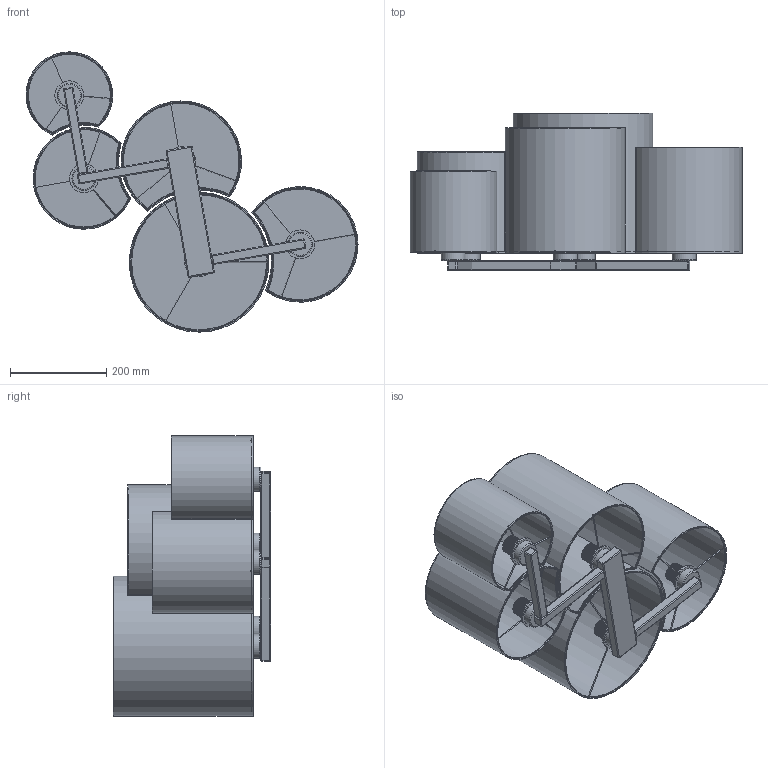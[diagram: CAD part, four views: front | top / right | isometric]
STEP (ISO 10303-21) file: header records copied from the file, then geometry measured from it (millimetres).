
FILE_DESCRIPTION(/* description */ (''),/* implementation_level */ '2;1');
FILE_NAME(/* name */ 'C:/Users/kubaw/OneDrive/Pulpit/TK_lighting - modele 2/OK/4394_MONA v6/4394_MONA v6.step',/* time_stamp */ '2021-03-31T19:53:07+02:00',/* author */ (''),/* organization */ (''),/* preprocessor_version */ 'ST-DEVELOPER v18.1',/* originating_system */ 'Autodesk Translation Framework v9.10.0.1330',/* authorisation */ '');
FILE_SCHEMA (('AUTOMOTIVE_DESIGN { 1 0 10303 214 3 1 1 }'));
Length unit declared in the file: millimetre
Products named in the file (2): 4394_MONA; MOCOWANIE_MONA
Assembly tree (5 placements, depth 2):
  4394_MONA
    MOCOWANIE_MONA  x5
Bounding box: 688.99 x 326 x 581.51 mm (x, y, z)
Volume: 1903807.9 mm3; surface area: 2396200.6 mm2
Topology: 89 solids, 89 shells, 886 faces, 1723 edges, 1060 vertices
Faces by surface type: cylinder 418, plane 324, sphere 80, bspline 42, torus 22
Full cylindrical faces by diameter (mm): 2 x29, 3 x25, 32 x5, 34.939 x65, 42 x5, 46 x5, 50 x5, 56 x5, 60 x5, 280 x1, 282 x1, 284 x1, 288 x1, 290 x1
Entity records: 16389 total; most frequent: CARTESIAN_POINT 8794, DIRECTION 1684, ORIENTED_EDGE 1376, AXIS2_PLACEMENT_3D 709, EDGE_CURVE 688, VERTEX_POINT 413, EDGE_LOOP 403, FACE_OUTER_BOUND 374
